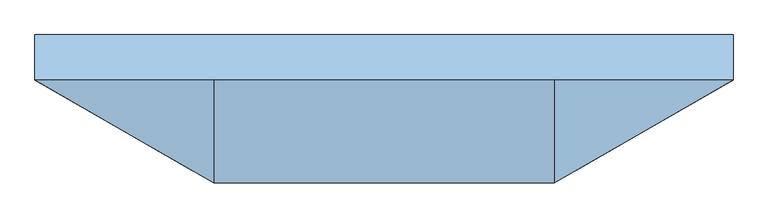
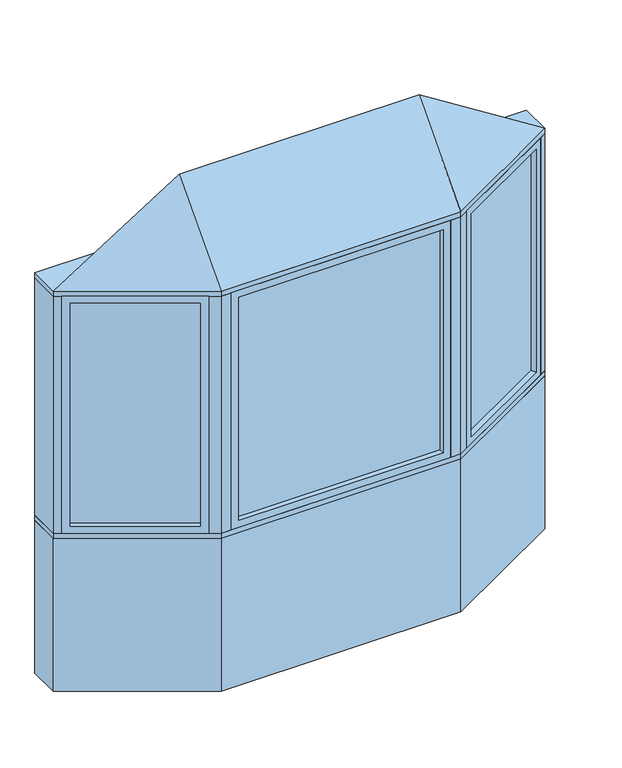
"""IFC4 building model written with IfcOpenShell, lengths in millimetres: window geometry, Pollard_Windows_Tudor Casement Bows and Bays : AML-BAY 30 AFR0612-12-600."""

import ifcopenshell
import ifcopenshell.guid

model = None  # the IFC model being written
_history = None  # IfcOwnerHistory: only IFC2X3 demands one
_inside = {}  # id of a spatial element -> (the spatial element, [elements in it])
_under = {}  # id of a project, library or spatial element -> (it, [spatial elements below it])
_declared = {}  # id of a project -> (the project, [libraries it declares])
_typed = {}  # id of a type object -> (the type object, [elements of that type])
_made_of = {}  # id of a material, layer set ... -> (it, [elements and type objects made of it])


def new_model(schema):
    """Start an empty IFC model of exactly this schema.

    Asked for "IFC4X3", IfcOpenShell would pick the latest addendum, in which some entities
    have other attributes; the version numbers below select the first issue.
    IFC2X3 requires an IfcOwnerHistory on every rooted entity: one is made here for all.
    """
    global model, _history
    if schema == "IFC4X3":
        model = ifcopenshell.file(schema_version=(4, 3, 0, 0))
    else:
        model = ifcopenshell.file(schema=schema)
    _inside.clear()
    _under.clear()
    _declared.clear()
    _typed.clear()
    _made_of.clear()
    _history = None
    if model.schema == "IFC2X3":
        org = make("IfcOrganization", Name="unknown")
        user = make(
            "IfcPersonAndOrganization",
            ThePerson=make("IfcPerson", FamilyName="unknown"),
            TheOrganization=org,
        )
        app = make(
            "IfcApplication",
            ApplicationDeveloper=org,
            Version="unknown",
            ApplicationFullName="unknown",
            ApplicationIdentifier="unknown",
        )
        _history = make(
            "IfcOwnerHistory",
            OwningUser=user,
            OwningApplication=app,
            ChangeAction="ADDED",
            CreationDate=0,
        )
    return model


def make(cls, **values):
    """One entity of the class cls with the attributes given. An attribute that is None is left unset."""
    return model.create_entity(
        cls, **{name: value for name, value in values.items() if value is not None}
    )


def rooted(cls, **values):
    """An entity with a GlobalId (a new one), such as an element, a storey or a relation."""
    return make(cls, GlobalId=ifcopenshell.guid.new(), OwnerHistory=_history, **values)


def si_unit(unit_type, name, prefix=None):
    """IfcSIUnit, for example si_unit("LENGTHUNIT", "METRE", prefix="MILLI")."""
    return make("IfcSIUnit", UnitType=unit_type, Prefix=prefix, Name=name)


def assignment(units):
    """IfcUnitAssignment: the units of a project."""
    return None if units is None else make("IfcUnitAssignment", Units=units)


def point(xyz):
    """IfcCartesianPoint."""
    return None if xyz is None else make("IfcCartesianPoint", Coordinates=xyz)


def direction(xyz):
    """IfcDirection."""
    return None if xyz is None else make("IfcDirection", DirectionRatios=xyz)


def frame(location, z_axis=None, x_axis=None):
    """IfcAxis2Placement3D, a coordinate frame: its origin and axes. An axis left out is left unset."""
    return make(
        "IfcAxis2Placement3D",
        Location=point(location),
        Axis=direction(z_axis),
        RefDirection=direction(x_axis),
    )


def origin():
    """The frame at (0, 0, 0) with its axes left unset."""
    return frame((0.0, 0.0, 0.0))


def origin_with_axes():
    """The frame at (0, 0, 0) with the z axis (0, 0, 1) and the x axis (1, 0, 0) written out."""
    return frame((0.0, 0.0, 0.0), z_axis=(0.0, 0.0, 1.0), x_axis=(1.0, 0.0, 0.0))


def place(relative_to, where):
    """IfcLocalPlacement: puts the frame where relative to a parent placement (None: the world)."""
    return make(
        "IfcLocalPlacement", PlacementRelTo=relative_to, RelativePlacement=where
    )


def context(
    kind, dimensions, precision=None, world=None, true_north=None, identifier=None
):
    """IfcGeometricRepresentationContext, for example the 3D "Model" context."""
    return make(
        "IfcGeometricRepresentationContext",
        ContextIdentifier=identifier,
        ContextType=kind,
        CoordinateSpaceDimension=dimensions,
        Precision=precision,
        WorldCoordinateSystem=world,
        TrueNorth=true_north,
    )


def project(units=None, contexts=None):
    """IfcProject with its units and contexts."""
    return rooted(
        "IfcProject",
        Name="project",
        RepresentationContexts=contexts,
        UnitsInContext=assignment(units),
    )


def spatial(cls, under=None, at=None, **own):
    """A site, building, storey or space (cls), placed at a placement, below another one or the project."""
    s = rooted(cls, ObjectPlacement=at, **own)
    if under is not None:
        _under.setdefault(under.id(), (under, []))[1].append(s)
    return s


def polyline(points):
    """IfcPolyline through the points."""
    return make("IfcPolyline", Points=[point(p) for p in points])


def outline(outer, holes=None, kind="AREA"):
    """IfcArbitraryClosedProfileDef: a profile drawn as a closed curve; with holes, ...WithVoids."""
    if holes is None:
        return make("IfcArbitraryClosedProfileDef", ProfileType=kind, OuterCurve=outer)
    return make(
        "IfcArbitraryProfileDefWithVoids",
        ProfileType=kind,
        OuterCurve=outer,
        InnerCurves=holes,
    )


def extrude(swept, where, along, depth):
    """IfcExtrudedAreaSolid: the profile swept, set in the frame where, extruded along a direction by depth."""
    return make(
        "IfcExtrudedAreaSolid",
        SweptArea=swept,
        Position=where,
        ExtrudedDirection=direction(along),
        Depth=depth,
    )


def faces_of(points, faces, orient=None, outer=None):
    """IfcFace entities. A face is a list of loops; a loop is a list of indices into points, from 0.

    orient and outer hold one flag for each loop. By default every Orientation is true, the
    first loop of a face is its IfcFaceOuterBound and the others are IfcFaceBound.
    """
    made = []
    for i, loops in enumerate(faces):
        bounds = []
        for j, loop in enumerate(loops):
            is_outer = j == 0 if outer is None else outer[i][j]
            bounds.append(
                make(
                    "IfcFaceOuterBound" if is_outer else "IfcFaceBound",
                    Bound=make("IfcPolyLoop", Polygon=[points[k] for k in loop]),
                    Orientation=True if orient is None else orient[i][j],
                )
            )
        made.append(make("IfcFace", Bounds=bounds))
    return made


def faceted_brep(points, faces, orient=None, outer=None, voids=None):
    """IfcFacetedBrep: a solid bounded by flat faces; with voids (closed shells), ...WithVoids."""
    shared = [point(p) for p in points]
    hull = make("IfcClosedShell", CfsFaces=faces_of(shared, faces, orient, outer))
    if voids is None:
        return make("IfcFacetedBrep", Outer=hull)
    return make(
        "IfcFacetedBrepWithVoids",
        Outer=hull,
        Voids=[
            make(cls, CfsFaces=faces_of(shared, fs, o, b)) for cls, fs, o, b in voids
        ],
    )


def shape(context_of_items, identifier, shape_type, items):
    """IfcShapeRepresentation: the items that make up one representation, for example the "Body"."""
    return make(
        "IfcShapeRepresentation",
        ContextOfItems=context_of_items,
        RepresentationIdentifier=identifier,
        RepresentationType=shape_type,
        Items=items,
    )


def source(mapping_origin, context_of_items, identifier, shape_type, items):
    """IfcRepresentationMap: a shape defined once, which mapped items show again and again."""
    return make(
        "IfcRepresentationMap",
        MappingOrigin=mapping_origin,
        MappedRepresentation=shape(context_of_items, identifier, shape_type, items),
    )


def transform(
    local_origin,
    x_axis=None,
    y_axis=None,
    z_axis=None,
    scale=None,
    scale2=None,
    scale3=None,
    uniform=True,
):
    """IfcCartesianTransformationOperator3D, or its non-uniform kind. x_axis, y_axis, z_axis: its Axis1, 2, 3."""
    if uniform:
        return make(
            "IfcCartesianTransformationOperator3D",
            Axis1=direction(x_axis),
            Axis2=direction(y_axis),
            LocalOrigin=point(local_origin),
            Scale=scale,
            Axis3=direction(z_axis),
        )
    return make(
        "IfcCartesianTransformationOperator3DnonUniform",
        Axis1=direction(x_axis),
        Axis2=direction(y_axis),
        LocalOrigin=point(local_origin),
        Scale=scale,
        Axis3=direction(z_axis),
        Scale2=scale2,
        Scale3=scale3,
    )


def mapped(mapping_source, mapping_target):
    """IfcMappedItem: shows the shape of a source again, moved by a transform."""
    return make(
        "IfcMappedItem", MappingSource=mapping_source, MappingTarget=mapping_target
    )


def made_of(thing, what):
    """Note that an element or type object is made of a material, layer set ...; save() writes the relation."""
    if what is not None:
        _made_of.setdefault(what.id(), (what, []))[1].append(thing)
    return thing


def element(
    cls,
    number,
    at=None,
    inside=None,
    cuts=None,
    type_object=None,
    material=None,
    context=None,
    identifier="Body",
    shape_type=None,
    held_by="IfcProductDefinitionShape",
    body=None,
    shapes=None,
    **own,
):
    """One element of the class cls, such as IfcWall. Its Tag is "e" and its number.

    at: its placement. inside: the storey or other place that contains it. cuts: it is an
    opening in that element (IfcRelVoidsElement). A single representation is given by context,
    identifier, shape_type and body (its items); several are given by shapes. held_by: the class
    of the entity that holds the representations. save() writes the other relations.
    """
    e = rooted(cls, Tag="e%d" % number, ObjectPlacement=at, **own)
    if body is not None:
        shapes = [shape(context, identifier, shape_type, body)]
    if shapes is not None:
        e.Representation = make(held_by, Representations=shapes)
    if inside is not None:
        _inside.setdefault(inside.id(), (inside, []))[1].append(e)
    if cuts is not None:
        rooted(
            "IfcRelVoidsElement", RelatingBuildingElement=cuts, RelatedOpeningElement=e
        )
    if type_object is not None:
        _typed.setdefault(type_object.id(), (type_object, []))[1].append(e)
    return made_of(e, material)


def aggregate(whole, parts):
    """IfcRelAggregates: a whole, such as a stair, and the parts it consists of."""
    return rooted("IfcRelAggregates", RelatingObject=whole, RelatedObjects=parts)


def save(model, path):
    """Write the relations noted so far, then the file.

    IfcRelAggregates (storeys below a building ...), IfcRelContainedInSpatialStructure (elements
    in a storey), IfcRelDefinesByType, IfcRelAssociatesMaterial and IfcRelDeclares: one each for
    every whole, place, type object, material and project.
    """
    for whole, parts in _under.values():
        aggregate(whole, parts)
    for where, things in _inside.values():
        rooted(
            "IfcRelContainedInSpatialStructure",
            RelatedElements=things,
            RelatingStructure=where,
        )
    for kind, things in _typed.values():
        rooted("IfcRelDefinesByType", RelatedObjects=things, RelatingType=kind)
    for what, things in _made_of.values():
        rooted("IfcRelAssociatesMaterial", RelatedObjects=things, RelatingMaterial=what)
    for by, libraries in _declared.values():
        rooted("IfcRelDeclares", RelatingContext=by, RelatedDefinitions=libraries)
    model.write(path)


def window_ebc5f2a3(model_context):
    return source(origin(), model_context, "Body", "SolidModel", [
        extrude(outline(polyline([(1113.112102, -82.0482469), (624.8834764, -363.9271754), (622.3434764, -359.5277664), (1110.572102, -77.6488379), (1113.112102, -82.0482469)])), frame((0.0, 0.0, 823.1628), z_axis=(0.0, 0.0, 1.0), x_axis=(1.0, 0.0, 0.0)), (0.0, 0.0, 1.0), 1153.6704),
        faceted_brep([(1102.1135794, -88.3982469, 835.8628), (1114.8135794, -110.3952922, 835.8628), (1114.8135794, -110.3952922, 1964.1332), (1102.1135794, -88.3982469, 1964.1332), (1110.572102, -77.6488379, 823.1628), (1113.112102, -82.0482469, 823.1628), (1113.112102, -82.0482469, 1976.8332), (1110.572102, -77.6488379, 1976.8332), (1086.8735794, -62.0017926, 835.8628), (1099.5735794, -83.9988379, 835.8628), (1099.5735794, -83.9988379, 1964.1332), (1086.8735794, -62.0017926, 1964.1332), (1145.8734073, -92.4628922, 799.998), (1117.9334073, -44.0693926, 799.998), (1117.9334073, -44.0693926, 1999.998), (1145.8734073, -92.4628922, 1999.998), (648.581999, -379.5742207, 1964.1332), (635.881999, -357.5771754, 1964.1332), (624.8834764, -363.9271754, 1976.8332), (622.3434764, -359.5277664, 1976.8332), (633.341999, -353.1777664, 1964.1332), (620.641999, -331.1807211, 1964.1332), (589.5821711, -349.1131211, 1999.998), (617.5221711, -397.5066207, 1999.998), (648.581999, -379.5742207, 835.8628), (635.881999, -357.5771754, 835.8628), (624.8834764, -363.9271754, 823.1628), (622.3434764, -359.5277664, 823.1628), (633.341999, -353.1777664, 835.8628), (620.641999, -331.1807211, 835.8628), (589.5821711, -349.1131211, 799.998), (617.5221711, -397.5066207, 799.998)], [[[0, 1, 2, 3]], [[4, 5, 6, 7]], [[8, 9, 10, 11]], [[12, 13, 14, 15]], [[3, 2, 16, 17]], [[7, 6, 18, 19]], [[11, 10, 20, 21]], [[15, 14, 22, 23]], [[17, 16, 24, 25]], [[19, 18, 26, 27]], [[21, 20, 28, 29]], [[23, 22, 30, 31]], [[25, 24, 1, 0]], [[5, 26, 18, 6], [3, 17, 25, 0]], [[27, 26, 5, 4]], [[7, 19, 27, 4], [9, 28, 20, 10]], [[29, 28, 9, 8]], [[13, 30, 22, 14], [11, 21, 29, 8]], [[31, 30, 13, 12]], [[15, 23, 31, 12], [1, 24, 16, 2]]]),
        extrude(outline(polyline([(-624.8834764, -363.9271754), (-1113.112102, -82.0482469), (-1110.572102, -77.6488379), (-622.3434764, -359.5277664), (-624.8834764, -363.9271754)])), frame((0.0, 0.0, 823.1628), z_axis=(0.0, 0.0, 1.0), x_axis=(1.0, 0.0, 0.0)), (0.0, 0.0, 1.0), 1153.6704),
        faceted_brep([(-633.341999, -353.1777664, 1964.1332), (-620.641999, -331.1807211, 1964.1332), (-620.641999, -331.1807211, 835.8628), (-633.341999, -353.1777664, 835.8628), (-624.8834764, -363.9271754, 1976.8332), (-622.3434764, -359.5277664, 1976.8332), (-622.3434764, -359.5277664, 823.1628), (-624.8834764, -363.9271754, 823.1628), (-648.581999, -379.5742207, 1964.1332), (-635.881999, -357.5771754, 1964.1332), (-635.881999, -357.5771754, 835.8628), (-648.581999, -379.5742207, 835.8628), (-589.5821711, -349.1131211, 1999.998), (-617.5221711, -397.5066207, 1999.998), (-617.5221711, -397.5066207, 799.998), (-589.5821711, -349.1131211, 799.998), (-1086.8735794, -62.0017926, 835.8628), (-1099.5735794, -83.9988379, 835.8628), (-1110.572102, -77.6488379, 823.1628), (-1113.112102, -82.0482469, 823.1628), (-1102.1135794, -88.3982469, 835.8628), (-1114.8135794, -110.3952922, 835.8628), (-1145.8734073, -92.4628922, 799.998), (-1117.9334073, -44.0693926, 799.998), (-1086.8735794, -62.0017926, 1964.1332), (-1099.5735794, -83.9988379, 1964.1332), (-1110.572102, -77.6488379, 1976.8332), (-1113.112102, -82.0482469, 1976.8332), (-1102.1135794, -88.3982469, 1964.1332), (-1114.8135794, -110.3952922, 1964.1332), (-1145.8734073, -92.4628922, 1999.998), (-1117.9334073, -44.0693926, 1999.998)], [[[0, 1, 2, 3]], [[4, 5, 6, 7]], [[8, 9, 10, 11]], [[12, 13, 14, 15]], [[3, 2, 16, 17]], [[7, 6, 18, 19]], [[11, 10, 20, 21]], [[15, 14, 22, 23]], [[17, 16, 24, 25]], [[19, 18, 26, 27]], [[21, 20, 28, 29]], [[23, 22, 30, 31]], [[15, 23, 31, 12], [1, 24, 16, 2]], [[25, 24, 1, 0]], [[5, 26, 18, 6], [3, 17, 25, 0]], [[27, 26, 5, 4]], [[7, 19, 27, 4], [9, 28, 20, 10]], [[29, 28, 9, 8]], [[13, 30, 22, 14], [11, 21, 29, 8]], [[31, 30, 13, 12]]]),
        extrude(outline(polyline([(501.0561009, -397.1066207), (-501.0561009, -397.1066207), (-501.0561009, -392.0266207), (501.0561009, -392.0266207), (501.0561009, -397.1066207)])), frame((0.0, 0.0, 823.1628), z_axis=(0.0, 0.0, 1.0), x_axis=(1.0, 0.0, 0.0)), (0.0, 0.0, 1.0), 1153.6704),
        faceted_brep([(488.3561009, -397.1066207, 835.8628), (488.3561009, -422.5066207, 835.8628), (488.3561009, -422.5066207, 1964.1332), (488.3561009, -397.1066207, 1964.1332), (501.0561009, -392.0266207, 823.1628), (501.0561009, -397.1066207, 823.1628), (501.0561009, -397.1066207, 1976.8332), (501.0561009, -392.0266207, 1976.8332), (488.3561009, -366.6266207, 835.8628), (488.3561009, -392.0266207, 835.8628), (488.3561009, -392.0266207, 1964.1332), (488.3561009, -366.6266207, 1964.1332), (524.2209009, -422.5066207, 799.998), (524.2209009, -366.6266207, 799.998), (524.2209009, -366.6266207, 1999.998), (524.2209009, -422.5066207, 1999.998), (-488.3561009, -422.5066207, 1964.1332), (-488.3561009, -397.1066207, 1964.1332), (-501.0561009, -397.1066207, 1976.8332), (-501.0561009, -392.0266207, 1976.8332), (-488.3561009, -392.0266207, 1964.1332), (-488.3561009, -366.6266207, 1964.1332), (-524.2209009, -366.6266207, 1999.998), (-524.2209009, -422.5066207, 1999.998), (-488.3561009, -422.5066207, 835.8628), (-488.3561009, -397.1066207, 835.8628), (-501.0561009, -397.1066207, 823.1628), (-501.0561009, -392.0266207, 823.1628), (-488.3561009, -392.0266207, 835.8628), (-488.3561009, -366.6266207, 835.8628), (-524.2209009, -366.6266207, 799.998), (-524.2209009, -422.5066207, 799.998)], [[[0, 1, 2, 3]], [[4, 5, 6, 7]], [[8, 9, 10, 11]], [[12, 13, 14, 15]], [[3, 2, 16, 17]], [[7, 6, 18, 19]], [[11, 10, 20, 21]], [[15, 14, 22, 23]], [[17, 16, 24, 25]], [[19, 18, 26, 27]], [[21, 20, 28, 29]], [[23, 22, 30, 31]], [[15, 23, 31, 12], [1, 24, 16, 2]], [[25, 24, 1, 0]], [[5, 26, 18, 6], [3, 17, 25, 0]], [[27, 26, 5, 4]], [[7, 19, 27, 4], [9, 28, 20, 10]], [[29, 28, 9, 8]], [[13, 30, 22, 14], [11, 21, 29, 8]], [[31, 30, 13, 12]]]),
        faceted_brep([(1176.5, -74.7806207, 2025.398), (574.2209009, -422.5066207, 2025.398), (-574.2209009, -422.5066207, 2025.398), (-1176.5, -74.7806207, 2025.398), (-574.2209009, -74.7806207, 2406.398), (574.2209009, -74.7806207, 2406.398)], [[[0, 1, 2, 3]], [[3, 2, 4]], [[2, 1, 5, 4]], [[1, 0, 5]], [[0, 3, 4, 5]]]),
        extrude(outline(polyline([(-1176.5, 77.6193793), (1176.5, 77.6193793), (1176.5, -74.7806207), (574.2209009, -422.5066207), (-574.2209009, -422.5066207), (-1176.5, -74.7806207), (-1176.5, 77.6193793)])), frame((0.0, 0.0, 1999.998), z_axis=(0.0, 0.0, 1.0), x_axis=(1.0, 0.0, 0.0)), (0.0, 0.0, 1.0), 25.4),
        extrude(outline(polyline([(-1176.5, -74.7806207), (-1176.5, 77.6193793), (-1135.6645431, 77.6193793), (-1135.6645431, -74.7806207), (-1145.8734073, -92.4628922), (-1176.5, -74.7806207)])), frame((0.0, 0.0, 799.998), z_axis=(0.0, 0.0, 1.0), x_axis=(1.0, 0.0, 0.0)), (0.0, 0.0, 1.0), 1200.0),
        extrude(outline(polyline([(1176.5, 77.6193793), (1176.5, -74.7806207), (1145.8734073, -92.4628922), (1135.6645431, -74.7806207), (1135.6645431, 77.6193793), (1176.5, 77.6193793)])), frame((0.0, 0.0, 799.998), z_axis=(0.0, 0.0, 1.0), x_axis=(1.0, 0.0, 0.0)), (0.0, 0.0, 1.0), 1200.0),
        extrude(outline(polyline([(574.2209009, -422.5066207), (524.2209009, -422.5066207), (524.2209009, -372.5066207), (560.8234413, -372.5066207), (592.5221711, -354.2053505), (617.5221711, -397.5066207), (574.2209009, -422.5066207)])), frame((0.0, 0.0, 799.998), z_axis=(0.0, 0.0, 1.0), x_axis=(1.0, 0.0, 0.0)), (0.0, 0.0, 1.0), 1200.0),
        extrude(outline(polyline([(-574.2209009, -422.5066207), (-617.5221711, -397.5066207), (-592.5221711, -354.2053505), (-560.8234413, -372.5066207), (-524.2209009, -372.5066207), (-524.2209009, -422.5066207), (-574.2209009, -422.5066207)])), frame((0.0, 0.0, 799.998), z_axis=(0.0, 0.0, 1.0), x_axis=(1.0, 0.0, 0.0)), (0.0, 0.0, 1.0), 1200.0),
        extrude(outline(polyline([(-574.2209009, -422.5066207), (-1176.5, -74.7806207), (-1176.5, 77.6193793), (-1135.6645431, 77.6193793), (-533.385444, -270.1066207), (533.385444, -270.1066207), (1135.6645431, 77.6193793), (1176.5, 77.6193793), (1176.5, -74.7806207), (574.2209009, -422.5066207), (-574.2209009, -422.5066207)])), frame((0.0, 0.0, 774.598), z_axis=(0.0, 0.0, 1.0), x_axis=(1.0, 0.0, 0.0)), (0.0, 0.0, 1.0), 25.4),
        extrude(outline(polyline([(-1176.5, -74.7806207), (-1176.5, 77.6193793), (-1135.6645431, 77.6193793), (-533.385444, -270.1066207), (533.385444, -270.1066207), (1135.6645431, 77.6193793), (1176.5, 77.6193793), (1176.5, -74.7806207), (574.2209009, -422.5066207), (-574.2209009, -422.5066207), (-1176.5, -74.7806207)])), origin_with_axes(), (0.0, 0.0, 1.0), 774.598),
    ])


if __name__ == "__main__":
    model = new_model("IFC4")
    model_context = context("Model", 3, world=origin())
    ifc_project = project(units=[si_unit("LENGTHUNIT", "METRE", prefix="MILLI")], contexts=[model_context])
    site = spatial("IfcSite", under=ifc_project)
    building = spatial("IfcBuilding", under=site)
    placement = place(None, origin())
    window_shape = window_ebc5f2a3(model_context)
    element("IfcWindow", 1, ObjectType="Pollard_Windows_Tudor Casement Bows and Bays : AML-BAY 30 AFR0612-12-600", at=placement, inside=building, context=model_context, shape_type="MappedRepresentation", body=[
        mapped(window_shape, transform((0.0, 0.0, 0.0), x_axis=(1.0, 0.0, 0.0), y_axis=(0.0, 1.0, 0.0), z_axis=(0.0, 0.0, 1.0))),
    ])
    save(model, "model.ifc")
